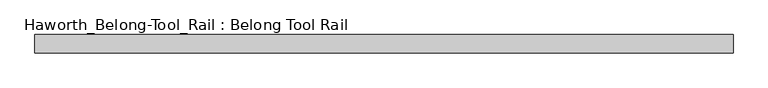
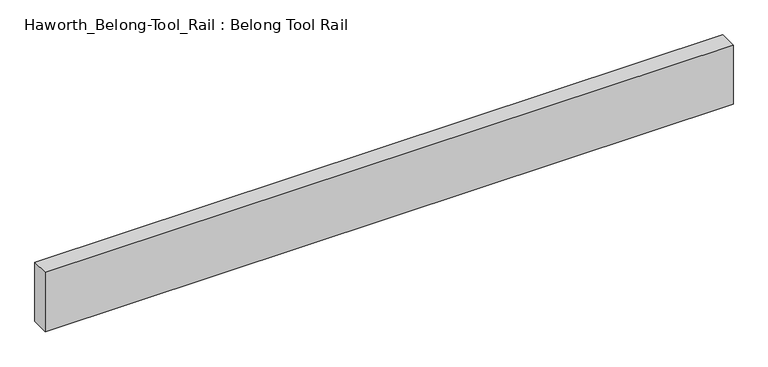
"""IFC4 building model written with IfcOpenShell, lengths in millimetres: furniture geometry, Haworth_Belong-Tool_Rail : Belong Tool Rail."""

from ifc_helpers import new_model, si_unit, frame, origin, place, context, project, spatial, polyline, outline, extrude, source, transform, mapped, element, save


def haworth_belong_tool_rail_belong_tool_rail_29e77153(model_context):
    return source(origin(), model_context, "Body", "SweptSolid", [
        extrude(outline(polyline([(609.6, -15.875), (-609.6, -15.875), (-609.6, 15.875), (609.6, 15.875), (609.6, -15.875)])), frame((0.0, 0.0, 950.9125), z_axis=(0.0, 0.0, 1.0), x_axis=(1.0, 0.0, 0.0)), (0.0, 0.0, 1.0), 111.125),
    ])


if __name__ == "__main__":
    model = new_model("IFC4")
    model_context = context("Model", 3, world=origin())
    ifc_project = project(units=[si_unit("LENGTHUNIT", "METRE", prefix="MILLI")], contexts=[model_context])
    site = spatial("IfcSite", under=ifc_project)
    building = spatial("IfcBuilding", under=site)
    placement = place(None, origin())
    haworth_belong_tool_rail_belong_tool_rail_shape = haworth_belong_tool_rail_belong_tool_rail_29e77153(model_context)
    element("IfcFurniture", 1, ObjectType="Haworth_Belong-Tool_Rail : Belong Tool Rail", at=placement, inside=building, context=model_context, shape_type="MappedRepresentation", body=[
        mapped(haworth_belong_tool_rail_belong_tool_rail_shape, transform((0.0, 0.0, 0.0), x_axis=(1.0, 0.0, 0.0), y_axis=(0.0, 1.0, 0.0), z_axis=(0.0, 0.0, 1.0))),
    ])
    save(model, "model.ifc")
